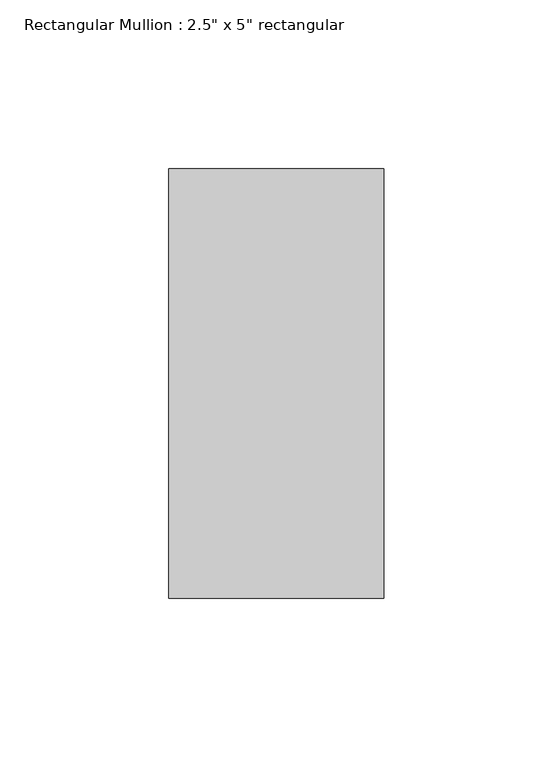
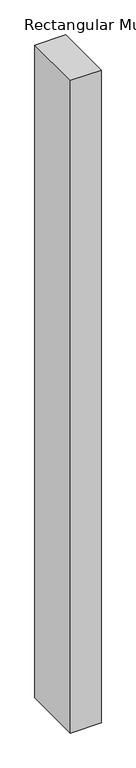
"""IFC4 building model written with IfcOpenShell, lengths in millimetres: member geometry."""

import ifcopenshell
import ifcopenshell.guid

model = None  # the IFC model being written
_history = None  # IfcOwnerHistory: only IFC2X3 demands one
_inside = {}  # id of a spatial element -> (the spatial element, [elements in it])
_under = {}  # id of a project, library or spatial element -> (it, [spatial elements below it])
_declared = {}  # id of a project -> (the project, [libraries it declares])
_typed = {}  # id of a type object -> (the type object, [elements of that type])
_made_of = {}  # id of a material, layer set ... -> (it, [elements and type objects made of it])


def new_model(schema):
    """Start an empty IFC model of exactly this schema.

    Asked for "IFC4X3", IfcOpenShell would pick the latest addendum, in which some entities
    have other attributes; the version numbers below select the first issue.
    IFC2X3 requires an IfcOwnerHistory on every rooted entity: one is made here for all.
    """
    global model, _history
    if schema == "IFC4X3":
        model = ifcopenshell.file(schema_version=(4, 3, 0, 0))
    else:
        model = ifcopenshell.file(schema=schema)
    _inside.clear()
    _under.clear()
    _declared.clear()
    _typed.clear()
    _made_of.clear()
    _history = None
    if model.schema == "IFC2X3":
        org = make("IfcOrganization", Name="unknown")
        user = make(
            "IfcPersonAndOrganization",
            ThePerson=make("IfcPerson", FamilyName="unknown"),
            TheOrganization=org,
        )
        app = make(
            "IfcApplication",
            ApplicationDeveloper=org,
            Version="unknown",
            ApplicationFullName="unknown",
            ApplicationIdentifier="unknown",
        )
        _history = make(
            "IfcOwnerHistory",
            OwningUser=user,
            OwningApplication=app,
            ChangeAction="ADDED",
            CreationDate=0,
        )
    return model


def make(cls, **values):
    """One entity of the class cls with the attributes given. An attribute that is None is left unset."""
    return model.create_entity(
        cls, **{name: value for name, value in values.items() if value is not None}
    )


def rooted(cls, **values):
    """An entity with a GlobalId (a new one), such as an element, a storey or a relation."""
    return make(cls, GlobalId=ifcopenshell.guid.new(), OwnerHistory=_history, **values)


def si_unit(unit_type, name, prefix=None):
    """IfcSIUnit, for example si_unit("LENGTHUNIT", "METRE", prefix="MILLI")."""
    return make("IfcSIUnit", UnitType=unit_type, Prefix=prefix, Name=name)


def assignment(units):
    """IfcUnitAssignment: the units of a project."""
    return None if units is None else make("IfcUnitAssignment", Units=units)


def point(xyz):
    """IfcCartesianPoint."""
    return None if xyz is None else make("IfcCartesianPoint", Coordinates=xyz)


def direction(xyz):
    """IfcDirection."""
    return None if xyz is None else make("IfcDirection", DirectionRatios=xyz)


def frame(location, z_axis=None, x_axis=None):
    """IfcAxis2Placement3D, a coordinate frame: its origin and axes. An axis left out is left unset."""
    return make(
        "IfcAxis2Placement3D",
        Location=point(location),
        Axis=direction(z_axis),
        RefDirection=direction(x_axis),
    )


def origin():
    """The frame at (0, 0, 0) with its axes left unset."""
    return frame((0.0, 0.0, 0.0))


def place(relative_to, where):
    """IfcLocalPlacement: puts the frame where relative to a parent placement (None: the world)."""
    return make(
        "IfcLocalPlacement", PlacementRelTo=relative_to, RelativePlacement=where
    )


def context(
    kind, dimensions, precision=None, world=None, true_north=None, identifier=None
):
    """IfcGeometricRepresentationContext, for example the 3D "Model" context."""
    return make(
        "IfcGeometricRepresentationContext",
        ContextIdentifier=identifier,
        ContextType=kind,
        CoordinateSpaceDimension=dimensions,
        Precision=precision,
        WorldCoordinateSystem=world,
        TrueNorth=true_north,
    )


def project(units=None, contexts=None):
    """IfcProject with its units and contexts."""
    return rooted(
        "IfcProject",
        Name="project",
        RepresentationContexts=contexts,
        UnitsInContext=assignment(units),
    )


def spatial(cls, under=None, at=None, **own):
    """A site, building, storey or space (cls), placed at a placement, below another one or the project."""
    s = rooted(cls, ObjectPlacement=at, **own)
    if under is not None:
        _under.setdefault(under.id(), (under, []))[1].append(s)
    return s


def polyline(points):
    """IfcPolyline through the points."""
    return make("IfcPolyline", Points=[point(p) for p in points])


def outline(outer, holes=None, kind="AREA"):
    """IfcArbitraryClosedProfileDef: a profile drawn as a closed curve; with holes, ...WithVoids."""
    if holes is None:
        return make("IfcArbitraryClosedProfileDef", ProfileType=kind, OuterCurve=outer)
    return make(
        "IfcArbitraryProfileDefWithVoids",
        ProfileType=kind,
        OuterCurve=outer,
        InnerCurves=holes,
    )


def extrude(swept, where, along, depth):
    """IfcExtrudedAreaSolid: the profile swept, set in the frame where, extruded along a direction by depth."""
    return make(
        "IfcExtrudedAreaSolid",
        SweptArea=swept,
        Position=where,
        ExtrudedDirection=direction(along),
        Depth=depth,
    )


def shape(context_of_items, identifier, shape_type, items):
    """IfcShapeRepresentation: the items that make up one representation, for example the "Body"."""
    return make(
        "IfcShapeRepresentation",
        ContextOfItems=context_of_items,
        RepresentationIdentifier=identifier,
        RepresentationType=shape_type,
        Items=items,
    )


def source(mapping_origin, context_of_items, identifier, shape_type, items):
    """IfcRepresentationMap: a shape defined once, which mapped items show again and again."""
    return make(
        "IfcRepresentationMap",
        MappingOrigin=mapping_origin,
        MappedRepresentation=shape(context_of_items, identifier, shape_type, items),
    )


def transform(
    local_origin,
    x_axis=None,
    y_axis=None,
    z_axis=None,
    scale=None,
    scale2=None,
    scale3=None,
    uniform=True,
):
    """IfcCartesianTransformationOperator3D, or its non-uniform kind. x_axis, y_axis, z_axis: its Axis1, 2, 3."""
    if uniform:
        return make(
            "IfcCartesianTransformationOperator3D",
            Axis1=direction(x_axis),
            Axis2=direction(y_axis),
            LocalOrigin=point(local_origin),
            Scale=scale,
            Axis3=direction(z_axis),
        )
    return make(
        "IfcCartesianTransformationOperator3DnonUniform",
        Axis1=direction(x_axis),
        Axis2=direction(y_axis),
        LocalOrigin=point(local_origin),
        Scale=scale,
        Axis3=direction(z_axis),
        Scale2=scale2,
        Scale3=scale3,
    )


def mapped(mapping_source, mapping_target):
    """IfcMappedItem: shows the shape of a source again, moved by a transform."""
    return make(
        "IfcMappedItem", MappingSource=mapping_source, MappingTarget=mapping_target
    )


def made_of(thing, what):
    """Note that an element or type object is made of a material, layer set ...; save() writes the relation."""
    if what is not None:
        _made_of.setdefault(what.id(), (what, []))[1].append(thing)
    return thing


def element(
    cls,
    number,
    at=None,
    inside=None,
    cuts=None,
    type_object=None,
    material=None,
    context=None,
    identifier="Body",
    shape_type=None,
    held_by="IfcProductDefinitionShape",
    body=None,
    shapes=None,
    **own,
):
    """One element of the class cls, such as IfcWall. Its Tag is "e" and its number.

    at: its placement. inside: the storey or other place that contains it. cuts: it is an
    opening in that element (IfcRelVoidsElement). A single representation is given by context,
    identifier, shape_type and body (its items); several are given by shapes. held_by: the class
    of the entity that holds the representations. save() writes the other relations.
    """
    e = rooted(cls, Tag="e%d" % number, ObjectPlacement=at, **own)
    if body is not None:
        shapes = [shape(context, identifier, shape_type, body)]
    if shapes is not None:
        e.Representation = make(held_by, Representations=shapes)
    if inside is not None:
        _inside.setdefault(inside.id(), (inside, []))[1].append(e)
    if cuts is not None:
        rooted(
            "IfcRelVoidsElement", RelatingBuildingElement=cuts, RelatedOpeningElement=e
        )
    if type_object is not None:
        _typed.setdefault(type_object.id(), (type_object, []))[1].append(e)
    return made_of(e, material)


def aggregate(whole, parts):
    """IfcRelAggregates: a whole, such as a stair, and the parts it consists of."""
    return rooted("IfcRelAggregates", RelatingObject=whole, RelatedObjects=parts)


def save(model, path):
    """Write the relations noted so far, then the file.

    IfcRelAggregates (storeys below a building ...), IfcRelContainedInSpatialStructure (elements
    in a storey), IfcRelDefinesByType, IfcRelAssociatesMaterial and IfcRelDeclares: one each for
    every whole, place, type object, material and project.
    """
    for whole, parts in _under.values():
        aggregate(whole, parts)
    for where, things in _inside.values():
        rooted(
            "IfcRelContainedInSpatialStructure",
            RelatedElements=things,
            RelatingStructure=where,
        )
    for kind, things in _typed.values():
        rooted("IfcRelDefinesByType", RelatedObjects=things, RelatingType=kind)
    for what, things in _made_of.values():
        rooted("IfcRelAssociatesMaterial", RelatedObjects=things, RelatingMaterial=what)
    for by, libraries in _declared.values():
        rooted("IfcRelDeclares", RelatingContext=by, RelatedDefinitions=libraries)
    model.write(path)


def member_1f80c32a(model_context):
    return source(origin(), model_context, "Body", "SweptSolid", [
        extrude(outline(polyline([(0.0, 50.8), (0.0, -76.2), (-63.5, -76.2), (-63.5, 50.8), (0.0, 50.8)])), frame((0.0, 0.0, -1427.6916667), z_axis=(0.0, 0.0, 1.0), x_axis=(1.0, 0.0, 0.0)), (0.0, 0.0, 1.0), 1427.6916667),
    ])


if __name__ == "__main__":
    model = new_model("IFC4")
    model_context = context("Model", 3, world=origin())
    ifc_project = project(units=[si_unit("LENGTHUNIT", "METRE", prefix="MILLI")], contexts=[model_context])
    site = spatial("IfcSite", under=ifc_project)
    building = spatial("IfcBuilding", under=site)
    placement = place(None, origin())
    member_shape = member_1f80c32a(model_context)
    element("IfcMember", 1, ObjectType="Rectangular Mullion : 2.5\" x 5\" rectangular", at=placement, inside=building, context=model_context, shape_type="MappedRepresentation", body=[
        mapped(member_shape, transform((0.0, 0.0, 0.0), x_axis=(1.0, 0.0, 0.0), y_axis=(0.0, 1.0, 0.0), z_axis=(0.0, 0.0, 1.0))),
    ])
    save(model, "model.ifc")
